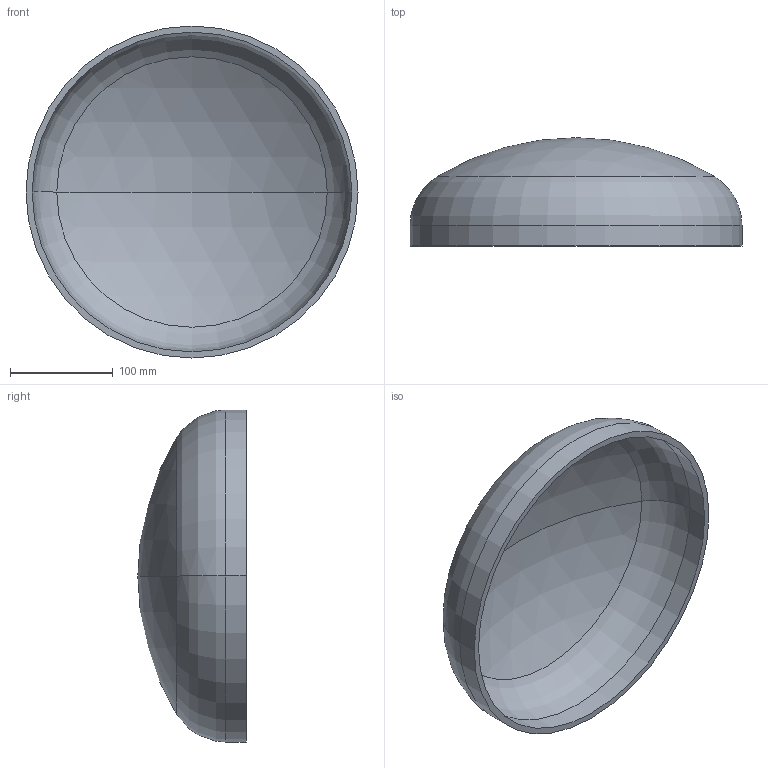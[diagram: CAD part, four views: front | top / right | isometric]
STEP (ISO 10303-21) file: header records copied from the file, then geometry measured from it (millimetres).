
FILE_DESCRIPTION (( 'STEP AP203' ), '1' );
FILE_NAME ('DIN 28013 Korbbogenform_-_Boden DIN 28013 - 323,9 x 20 - I - s=6.step', '2016-07-01T07:44:08', ( '' ), ( '' ), 'SwSTEP 2.0', 'SolidWorks 2013', '' );
FILE_SCHEMA (( 'CONFIG_CONTROL_DESIGN' ));
Length unit declared in the file: millimetre
Products named in the file (1): DIN 28013 Korbbogenform_-_Boden DIN 28013 - 323,9 x 20 - I - s=6
Bounding box: 323.9 x 105.67 x 323.9 mm (x, y, z)
Volume: 789532.6 mm3; surface area: 269245.1 mm2
Topology: 1 solids, 1 shells, 13 faces, 24 edges, 14 vertices
Faces by surface type: torus 4, cylinder 4, sphere 4, plane 1
Entity records: 407 total; most frequent: DIRECTION 72, CARTESIAN_POINT 52, ORIENTED_EDGE 48, AXIS2_PLACEMENT_3D 34, EDGE_CURVE 24, CIRCLE 20, VERTEX_POINT 14, EDGE_LOOP 14
